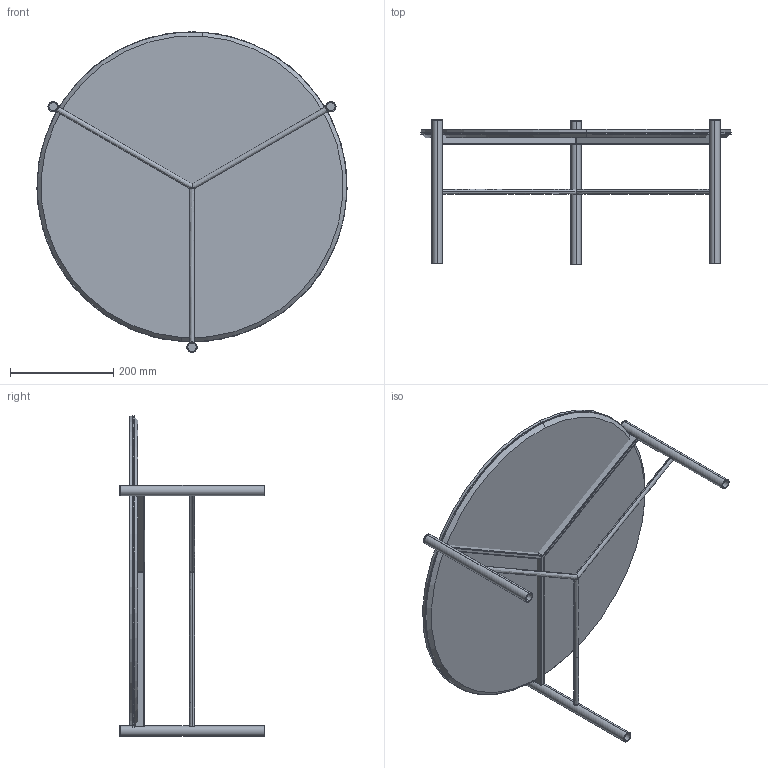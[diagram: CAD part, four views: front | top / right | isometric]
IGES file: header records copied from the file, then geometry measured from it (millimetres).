
Start section: SolidWorks IGES file using analytic representation for surfaces
Global section: file name: Y:\eforma\TECNICO\SOLIDWORKS\E-FORMA\2-TAVOLINI\JACK\02 parts\J101C.IGS; native system: SolidWorks 2022; preprocessor: SolidWorks 2022; author: eforma.tech; date: 240806.134310; units: millimetre
Bounding box: 599.97 x 279 x 620.07 mm (x, y, z)
Volume: 5478912.1 mm3; surface area: 1962182.2 mm2
Topology: 15 solids, 15 shells, 131 faces, 303 edges, 200 vertices
Faces by surface type: revolution 77, plane 54
